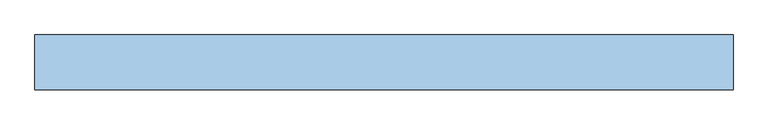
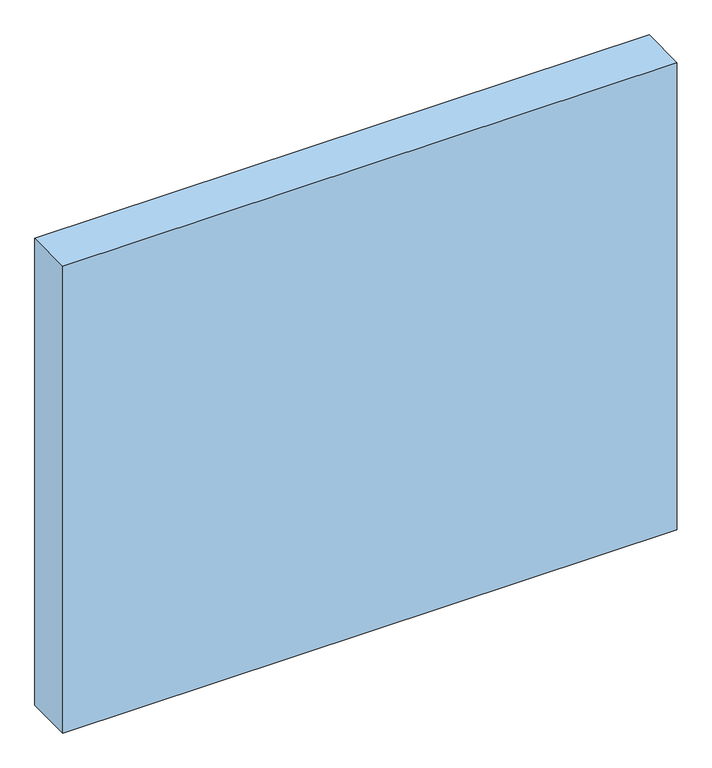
"""IFC4 building model written with IfcOpenShell, lengths in millimetres: window geometry, Dr_Проем-Четверти_об модель : ОК."""

from ifc_helpers import new_model, si_unit, frame, origin, place, context, project, spatial, polyline, outline, extrude, source, transform, mapped, element, save


def window_05762c98(model_context):
    return source(origin(), model_context, "Body", "SweptSolid", [
        extrude(outline(polyline([(1405.0, 100.0), (1405.0, -100.0), (-1135.0, -100.0), (-1135.0, 100.0), (1405.0, 100.0)])), frame((0.0, 0.0, -70.0), z_axis=(0.0, 0.0, 1.0), x_axis=(1.0, 0.0, 0.0)), (0.0, 0.0, 1.0), 2040.0),
    ])


if __name__ == "__main__":
    model = new_model("IFC4")
    model_context = context("Model", 3, world=origin())
    ifc_project = project(units=[si_unit("LENGTHUNIT", "METRE", prefix="MILLI")], contexts=[model_context])
    site = spatial("IfcSite", under=ifc_project)
    building = spatial("IfcBuilding", under=site)
    placement = place(None, origin())
    window_shape = window_05762c98(model_context)
    element("IfcWindow", 1, ObjectType="Dr_Проем-Четверти_об модель : ОК", at=placement, inside=building, context=model_context, shape_type="MappedRepresentation", body=[
        mapped(window_shape, transform((0.0, 0.0, 0.0), x_axis=(1.0, 0.0, 0.0), y_axis=(0.0, 1.0, 0.0), z_axis=(0.0, 0.0, 1.0))),
    ])
    save(model, "model.ifc")
